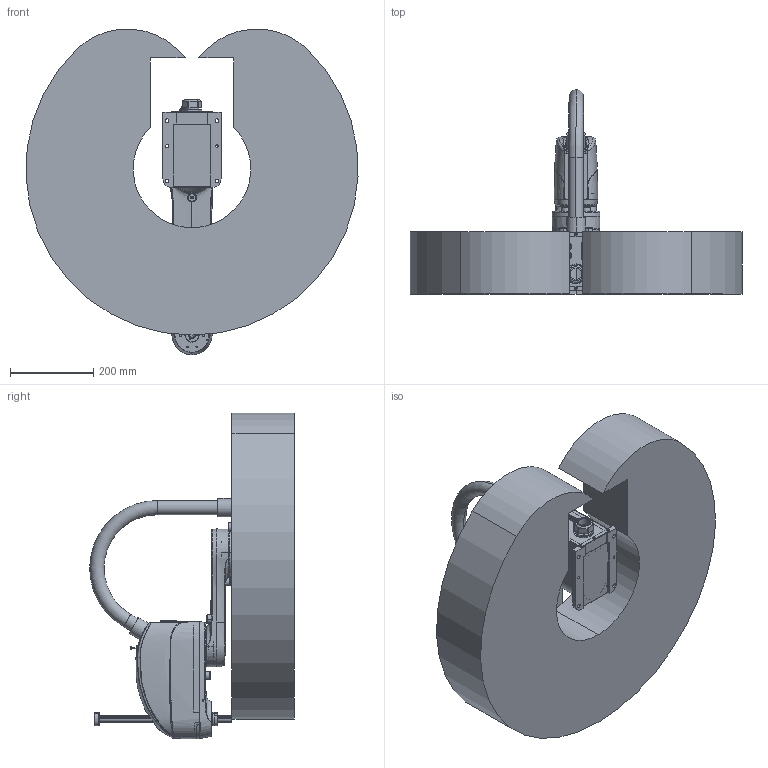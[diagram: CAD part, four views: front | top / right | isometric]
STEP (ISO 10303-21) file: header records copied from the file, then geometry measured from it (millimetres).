
FILE_DESCRIPTION (( 'STEP AP214' ), '1' );
FILE_NAME ('SCARA-AIR3SC-400-Assembly.STEP', '2024-02-23T07:01:00', ( '' ), ( '' ), 'SwSTEP 2.0', 'SolidWorks 2011', '' );
FILE_SCHEMA (( 'AUTOMOTIVE_DESIGN' ));
Products named in the file (7): SCARA-AIR3SC-400-Working range; SCARA-AIR3SC-400-Plastic flexible conduit; SCARA-AIR3SC-400-Lower-arm; SCARA-AIR3SC-400-Upper-arm; SCARA-AIR3SC-400-Base; SCARA-AIR3SC-400-Screw spline; SCARA-AIR3SC-400-Assembly
Assembly tree (6 placements, depth 2):
  SCARA-AIR3SC-400-Assembly
    SCARA-AIR3SC-400-Lower-arm
    SCARA-AIR3SC-400-Base
    SCARA-AIR3SC-400-Upper-arm
    SCARA-AIR3SC-400-Screw spline
    SCARA-AIR3SC-400-Working range
    SCARA-AIR3SC-400-Plastic flexible conduit
Bounding box: 799.19 x 492.49 x 783.8 mm (x, y, z)
Volume: 59824157.9 mm3; surface area: 2270114 mm2
Topology: 41 solids, 95 shells, 3839 faces, 9270 edges, 5827 vertices
Faces by surface type: plane 1733, cylinder 1268, cone 525, bspline 198, torus 113, sphere 2
Entity records: 194978 total; most frequent: CARTESIAN_POINT 104667, DIRECTION 18839, ORIENTED_EDGE 18218, EDGE_CURVE 9117, AXIS2_PLACEMENT_3D 6986, VERTEX_POINT 5827, LINE 4867, VECTOR 4867
